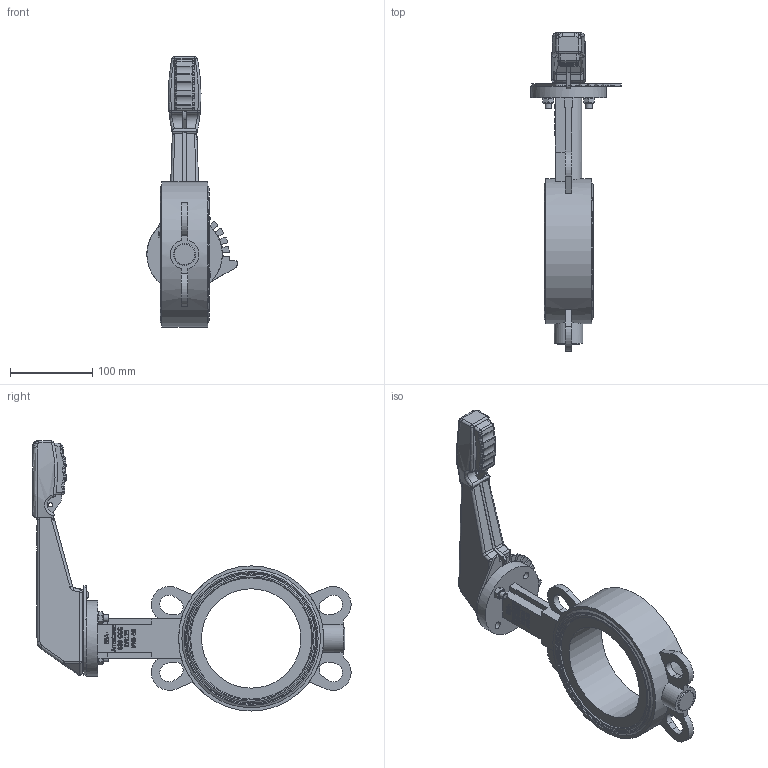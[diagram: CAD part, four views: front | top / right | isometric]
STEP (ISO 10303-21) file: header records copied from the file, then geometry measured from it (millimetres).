
FILE_DESCRIPTION((''),'2;1');
FILE_NAME('K:\Inventor\1 Artikel\10) Absperrklappen\10a) manuell\Witzel\830-GGG, Euronomic BA\830-GGG, DN125\830-GGG, DN125, 3D\830-GGG, DN125, PN6-16, HH, 3D.stp','2019-08-14T10:06:32',('claudia'),(''),'Autodesk Inventor 2013','Autodesk Inventor 2013','');
FILE_SCHEMA(('AUTOMOTIVE_DESIGN { 1 0 10303 214 1 1 1 1 }'));
Length unit declared in the file: millimetre
Products named in the file (1): Bauteil5
Bounding box: 110 x 387.74 x 329.25 mm (x, y, z)
Volume: 1408249.1 mm3; surface area: 177348.8 mm2
Topology: 1 solids, 3 shells, 1261 faces, 3399 edges, 2220 vertices
Faces by surface type: plane 553, bspline 457, cylinder 153, cone 48, torus 36, sphere 14
Full cylindrical faces by diameter (mm): 5 x1, 7.233 x2, 8 x4, 9 x4, 12 x2, 15.8 x2, 25 x1, 27 x1, 42 x1, 92 x1, 121.2 x1, 177 x1
Entity records: 47441 total; most frequent: CARTESIAN_POINT 18732, ORIENTED_EDGE 6640, DIRECTION 4415, EDGE_CURVE 3320, VERTEX_POINT 2203, VECTOR 1797, LINE 1797, EDGE_LOOP 1415
